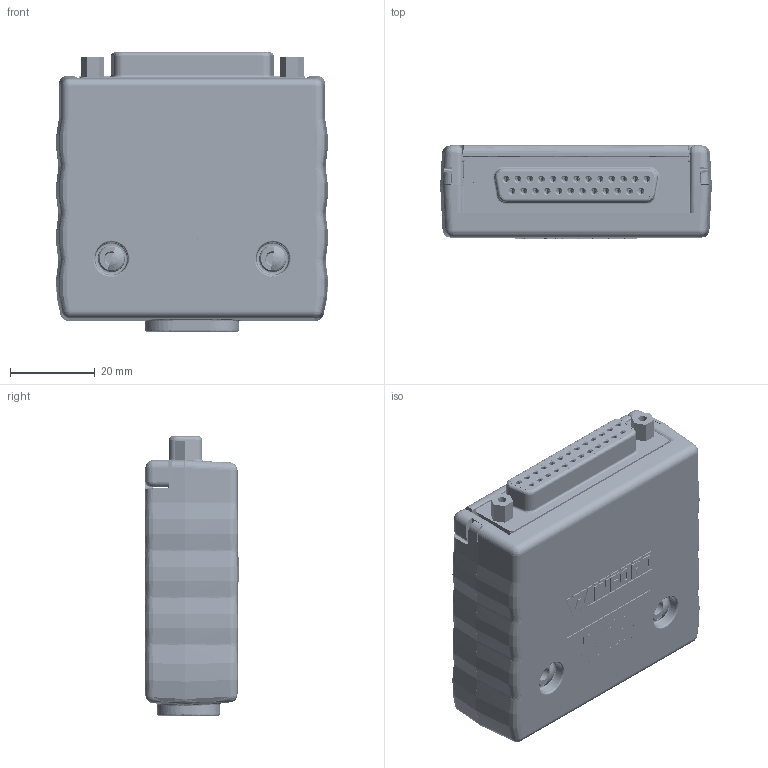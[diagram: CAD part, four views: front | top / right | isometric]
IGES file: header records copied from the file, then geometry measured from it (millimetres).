
Start section: SolidWorks IGES file using analytic representation for surfaces
Global section: file name: C:\Users\mudhf\Desktop\DB25 Enclosure\brkead25f-r_rev_a.igs; native system: SolidWorks 2017; preprocessor: SolidWorks 2017; author: mudhf; date: 220111.185052; units: inch
Bounding box: 64.19 x 22 x 65.91 mm (x, y, z)
Surface area: 51362.2 mm2 (no closed solid volume)
Topology: 0 solids, 0 shells, 15239 faces, 109093 edges, 109073 vertices
Faces by surface type: bspline 11934, revolution 3305
